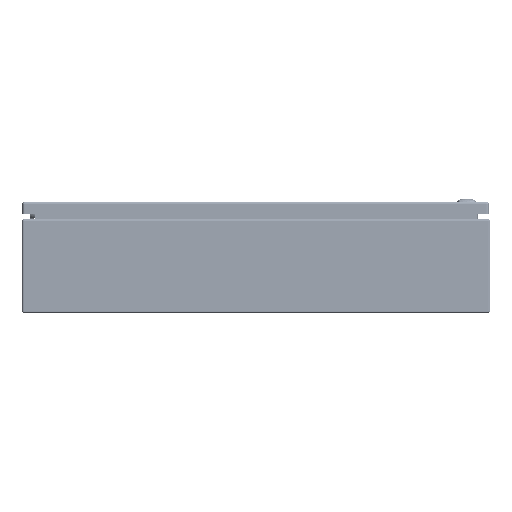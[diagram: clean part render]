
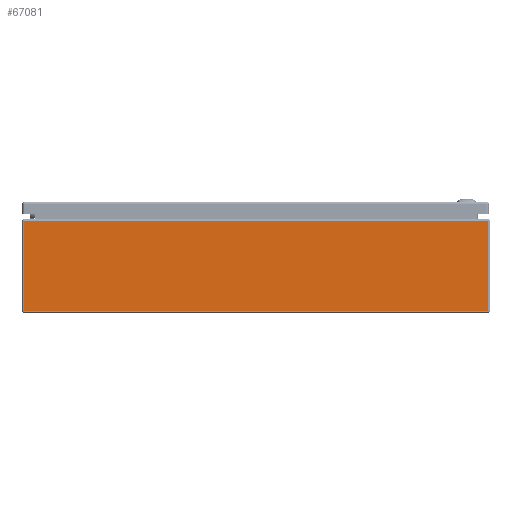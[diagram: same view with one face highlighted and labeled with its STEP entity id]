
A CAD part, front view. The second image highlights one B-rep face of the part: STEP entity #67081.
In plain terms, the highlighted planar face has unit normal (0, -1, 0).
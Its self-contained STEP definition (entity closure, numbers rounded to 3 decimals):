
#6496=LINE('',#94442,#10637);
#6499=LINE('',#94464,#10640);
#6500=LINE('',#94466,#10641);
#6501=LINE('',#94467,#10642);
#10637=VECTOR('',#78199,0.394);
#10640=VECTOR('',#78230,0.394);
#10641=VECTOR('',#78231,0.394);
#10642=VECTOR('',#78232,0.394);
#15839=FACE_OUTER_BOUND('',#19952,.T.);
#19952=EDGE_LOOP('',(#44687,#44688,#44689,#44690));
#26986=VERTEX_POINT('',#94431);
#26989=VERTEX_POINT('',#94441);
#26994=VERTEX_POINT('',#94463);
#26995=VERTEX_POINT('',#94465);
#33841=EDGE_CURVE('',#26986,#26989,#6496,.T.);
#33852=EDGE_CURVE('',#26994,#26986,#6499,.T.);
#33853=EDGE_CURVE('',#26994,#26995,#6500,.T.);
#33854=EDGE_CURVE('',#26989,#26995,#6501,.T.);
#44687=ORIENTED_EDGE('',*,*,#33841,.F.);
#44688=ORIENTED_EDGE('',*,*,#33852,.F.);
#44689=ORIENTED_EDGE('',*,*,#33853,.T.);
#44690=ORIENTED_EDGE('',*,*,#33854,.F.);
#65659=PLANE('',#72093);
#67081=ADVANCED_FACE('',(#15839),#65659,.T.);
#72093=AXIS2_PLACEMENT_3D('',#94462,#78228,#78229);
#78199=DIRECTION('',(1.,0.,0.));
#78228=DIRECTION('center_axis',(0.,-1.,0.));
#78229=DIRECTION('ref_axis',(-1.,0.,0.));
#78230=DIRECTION('',(0.,0.,1.));
#78231=DIRECTION('',(1.,0.,0.));
#78232=DIRECTION('',(0.,0.,-1.));
#94431=CARTESIAN_POINT('',(-14.901,-18.,5.901));
#94441=CARTESIAN_POINT('',(14.901,-18.,5.901));
#94442=CARTESIAN_POINT('',(0.025,-18.,5.901));
#94462=CARTESIAN_POINT('Origin',(15.,-18.,6.));
#94463=CARTESIAN_POINT('',(-14.901,-18.,0.099));
#94464=CARTESIAN_POINT('',(-14.901,-18.,3.));
#94465=CARTESIAN_POINT('',(14.901,-18.,0.099));
#94466=CARTESIAN_POINT('',(-7.451,-18.,0.099));
#94467=CARTESIAN_POINT('',(14.901,-18.,3.));
